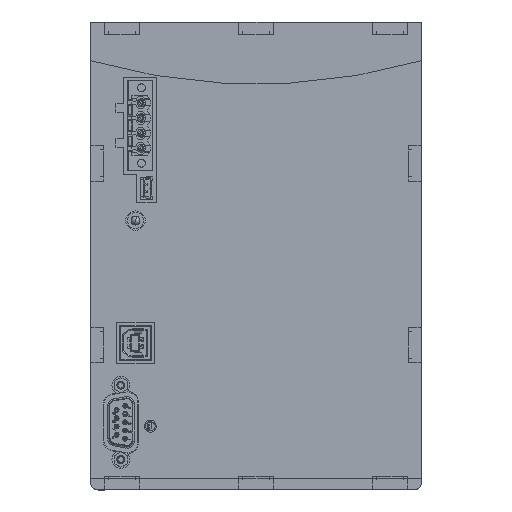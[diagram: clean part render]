
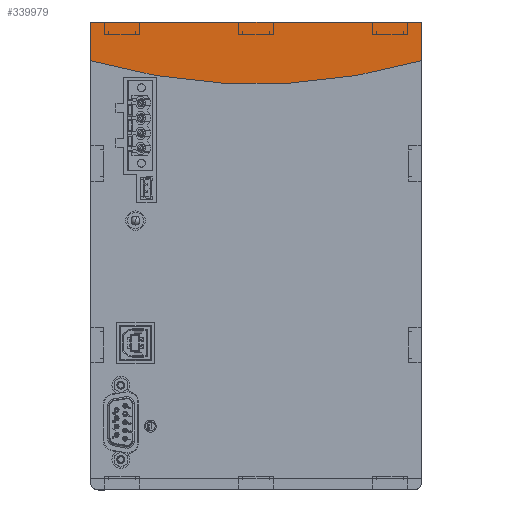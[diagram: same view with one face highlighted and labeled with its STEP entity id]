
A CAD part, top view. The second image highlights one B-rep face of the part: STEP entity #339979.
In plain terms, the highlighted planar face has unit normal (0, 0, 1).
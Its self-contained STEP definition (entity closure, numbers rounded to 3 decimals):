
#15321 = VERTEX_POINT ( 'NONE', #380653 ) ;
#19601 = CARTESIAN_POINT ( 'NONE',  ( 0., 0., -0.01 ) ) ;
#36250 = LINE ( 'NONE', #235627, #471468 ) ;
#38806 = DIRECTION ( 'NONE',  ( -1., 0., 0. ) ) ;
#39173 = CARTESIAN_POINT ( 'NONE',  ( 0., 0., -0.01 ) ) ;
#45509 = DIRECTION ( 'NONE',  ( 0., 0., 1. ) ) ;
#78484 = VERTEX_POINT ( 'NONE', #294135 ) ;
#89230 = DIRECTION ( 'NONE',  ( 1., 0., 0. ) ) ;
#89745 = DIRECTION ( 'NONE',  ( 0., 1., 0. ) ) ;
#123752 = LINE ( 'NONE', #196361, #455595 ) ;
#128670 = LINE ( 'NONE', #19601, #366658 ) ;
#142425 = EDGE_CURVE ( 'NONE', #329856, #78484, #415765, .T. ) ;
#157091 = DIRECTION ( 'NONE',  ( 1., 0., 0. ) ) ;
#167963 = VERTEX_POINT ( 'NONE', #39173 ) ;
#196361 = CARTESIAN_POINT ( 'NONE',  ( -111., -13., -0.01 ) ) ;
#215996 = DIRECTION ( 'NONE',  ( 0., 0., 1. ) ) ;
#235627 = CARTESIAN_POINT ( 'NONE',  ( 0., 0., -0.01 ) ) ;
#237653 = DIRECTION ( 'NONE',  ( 0., -1., 0. ) ) ;
#242357 = FACE_OUTER_BOUND ( 'NONE', #313206, .T. ) ;
#258497 = AXIS2_PLACEMENT_3D ( 'NONE', #368974, #215996, #89230 ) ;
#294135 = CARTESIAN_POINT ( 'NONE',  ( 0., -13., -0.01 ) ) ;
#313206 = EDGE_LOOP ( 'NONE', ( #506358, #452528, #394703, #386090 ) ) ;
#329856 = VERTEX_POINT ( 'NONE', #348178 ) ;
#339979 = ADVANCED_FACE ( 'NONE', ( #242357 ), #483251, .T. ) ;
#348178 = CARTESIAN_POINT ( 'NONE',  ( -111., -13., -0.01 ) ) ;
#366658 = VECTOR ( 'NONE', #89745, 1000. ) ;
#368974 = CARTESIAN_POINT ( 'NONE',  ( -55.5, 179.145, -0.01 ) ) ;
#379136 = EDGE_CURVE ( 'NONE', #78484, #167963, #128670, .T. ) ;
#380653 = CARTESIAN_POINT ( 'NONE',  ( -111., 0., -0.01 ) ) ;
#386090 = ORIENTED_EDGE ( 'NONE', *, *, #142425, .T. ) ;
#394703 = ORIENTED_EDGE ( 'NONE', *, *, #455003, .T. ) ;
#403006 = CARTESIAN_POINT ( 'NONE',  ( -55.5, 179.145, -0.01 ) ) ;
#415765 = CIRCLE ( 'NONE', #258497, 200. ) ;
#452528 = ORIENTED_EDGE ( 'NONE', *, *, #454086, .T. ) ;
#454086 = EDGE_CURVE ( 'NONE', #167963, #15321, #36250, .T. ) ;
#455003 = EDGE_CURVE ( 'NONE', #15321, #329856, #123752, .T. ) ;
#455595 = VECTOR ( 'NONE', #237653, 1000. ) ;
#471468 = VECTOR ( 'NONE', #38806, 1000. ) ;
#483251 = PLANE ( 'NONE',  #504827 ) ;
#504827 = AXIS2_PLACEMENT_3D ( 'NONE', #403006, #45509, #157091 ) ;
#506358 = ORIENTED_EDGE ( 'NONE', *, *, #379136, .T. ) ;
